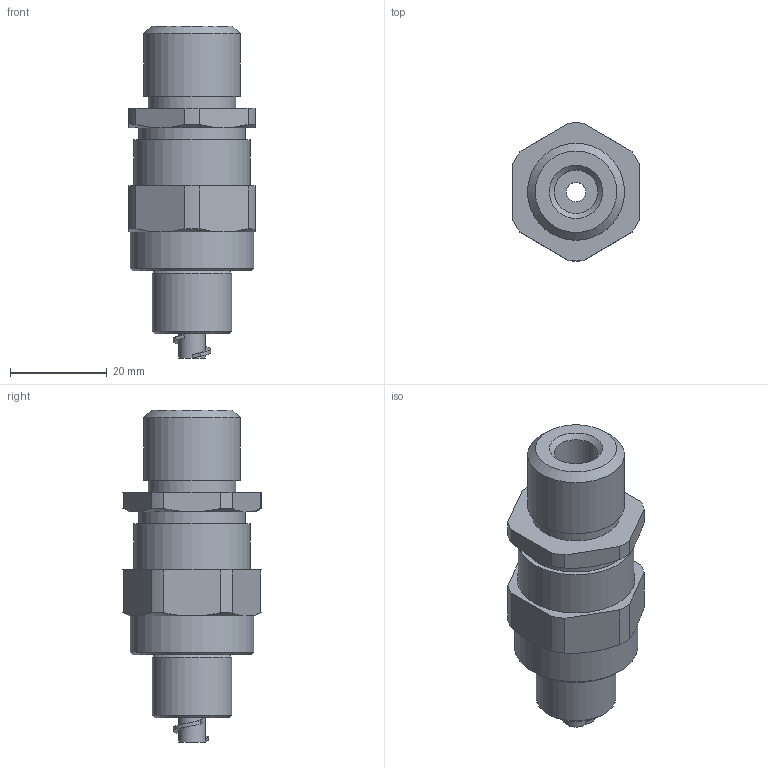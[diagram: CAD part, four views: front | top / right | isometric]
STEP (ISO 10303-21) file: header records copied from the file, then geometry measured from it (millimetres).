
FILE_DESCRIPTION((''),'2;1');
FILE_NAME('C:\Users\A.V.Nesterov\Desktop\111\3D\ТЗ\ТЗ 110229\КНВМ1M-06Н_3D.stp','2024-08-22T19:48:43',('A.V.Nesterov'),(''),'Autodesk Inventor 2012','Autodesk Inventor 2012','');
FILE_SCHEMA(('AUTOMOTIVE_DESIGN { 1 0 10303 214 1 1 1 1 }'));
Length unit declared in the file: millimetre
Products named in the file (1): КНВМ1M-06Н_3D
Bounding box: 26 x 28.48 x 68.5 mm (x, y, z)
Surface area: 13206 mm2 (no closed solid volume)
Topology: 0 solids, 5 shells, 121 faces, 278 edges, 181 vertices
Faces by surface type: plane 52, cylinder 44, cone 23, bspline 2
Full cylindrical faces by diameter (mm): 4 x1, 5.5 x1, 9 x1, 9.4 x1, 11 x2, 11.2 x1, 12.5 x1, 12.8 x1, 13 x1, 13.5 x1, 16.5 x1, 17.5 x1, 18 x1, 19.5 x1, 20 x2, 21.5 x1, 22 x1, 22.376 x1, 24 x1, 25.5 x1
Entity records: 3378 total; most frequent: CARTESIAN_POINT 790, DIRECTION 549, ORIENTED_EDGE 470, EDGE_CURVE 235, AXIS2_PLACEMENT_3D 228, EDGE_LOOP 177, VERTEX_POINT 172, FACE_OUTER_BOUND 120
